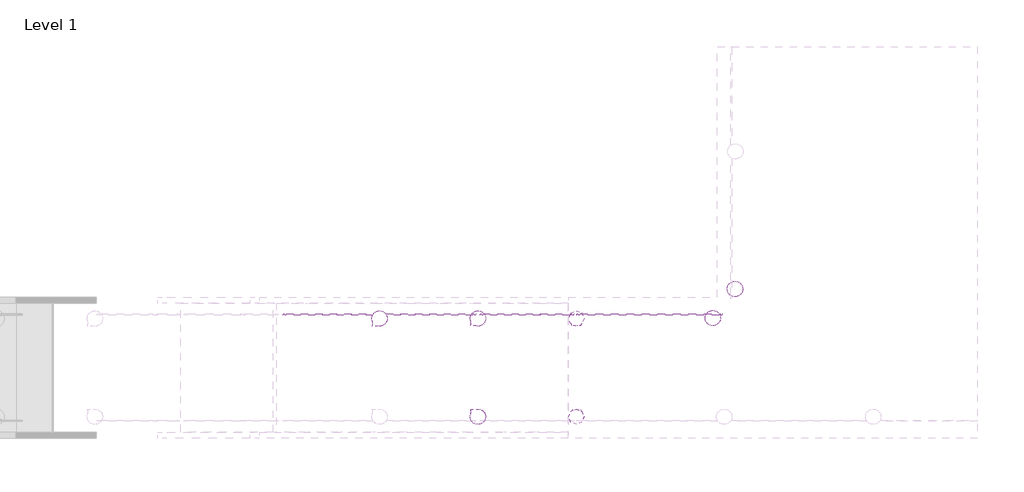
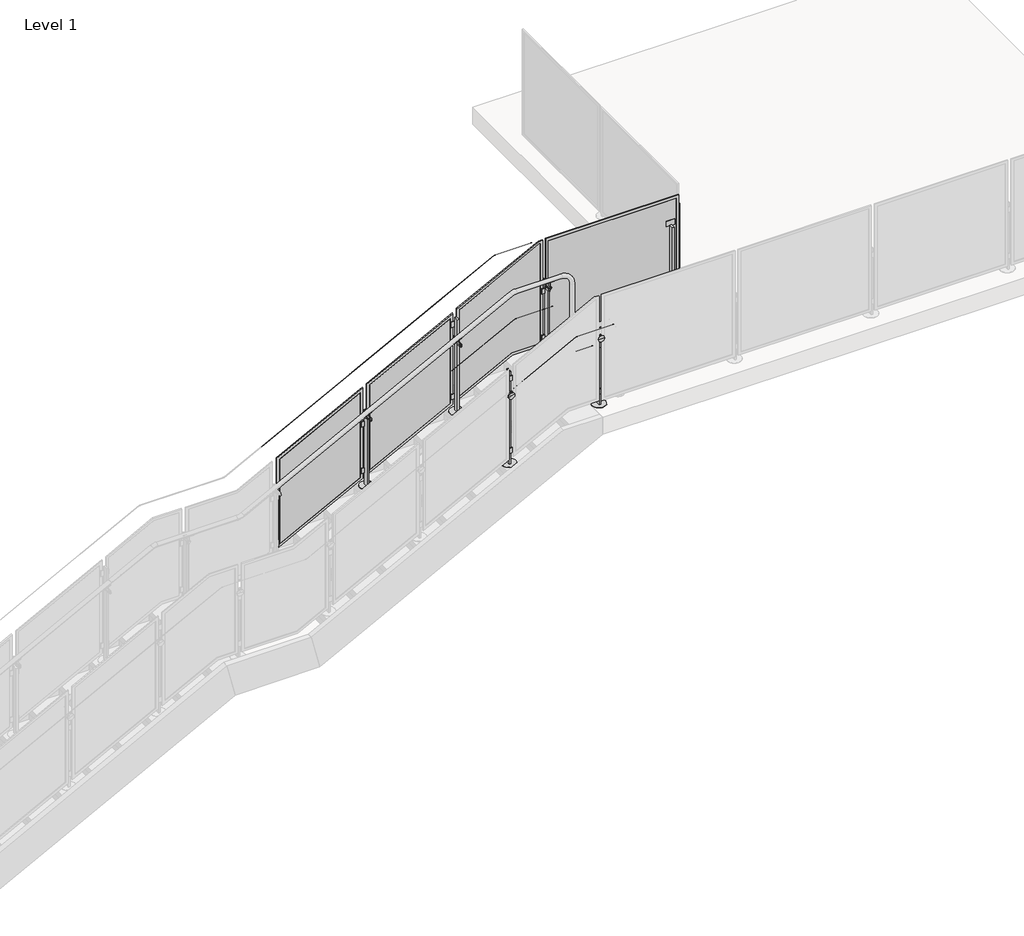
# One storey, part 27 of 28: 5 railings, 4 proxies.
"""IFC4 building model written with IfcOpenShell, lengths in millimetres."""

from ifc_helpers import new_model, si_unit, point, frame, frame_2d, origin, place, context, project, spatial, polyline, circle_curve, ellipse_curve, trimmed, segment, composite_curve, outline, extrude, transform, mapped, element, save
from ifc_brep_helpers import plane_surface, cylinder_surface, advanced_brep
from components import building_element_proxy_bc1e0d3e, building_element_proxy_d74b3768, building_element_proxy_1b4bb758, standard_pp01_0bf05b01

model = new_model("IFC4")

# Units and contexts
model_context = context("Model", 3, world=origin())
ifc_project = project(units=[si_unit("LENGTHUNIT", "METRE", prefix="MILLI")], contexts=[model_context])

# Site, building, storey
site = spatial("IfcSite", under=ifc_project)
building = spatial("IfcBuilding", under=site)
storey = spatial("IfcBuildingStorey", under=building, Name="Level 1", Elevation=0.0)

# Proxies
placement = place(None, origin())
building_element_proxy_shape = building_element_proxy_bc1e0d3e(model_context)
element("IfcBuildingElementProxy", 1, Name="Baluster-End-Post-VIVA-STRUC-Top Mount : CORED INTO CONCRETE_TOP MOUNT STRUC_STRAIGHT", ObjectType="Baluster-End-Post-VIVA-STRUC-Top Mount : CORED INTO CONCRETE_TOP MOUNT STRUC_STRAIGHT", at=placement, inside=storey, context=model_context, shape_type="MappedRepresentation", body=[
    mapped(building_element_proxy_shape, transform((-10830.7485244, 9498.7985341, 3047.492), x_axis=(0.0, -1.0, 0.0), y_axis=(1.0, 0.0, 0.0), z_axis=(0.0, 0.0, 1.0))),
])
building_element_proxy_2_shape = building_element_proxy_d74b3768(model_context)
element("IfcBuildingElementProxy", 2, Name="Baluster-End-Post-VIVA-STRUC-Top Mount : CORED INTO CONCRETE_TOP MOUNT STRUC_STRAIGHT", ObjectType="Baluster-End-Post-VIVA-STRUC-Top Mount : CORED INTO CONCRETE_TOP MOUNT STRUC_STRAIGHT", at=placement, inside=storey, context=model_context, shape_type="MappedRepresentation", body=[
    mapped(building_element_proxy_2_shape, transform((-11020.4813244, 9250.4933232, 3047.492), x_axis=(-1.0, 0.0, 0.0), y_axis=(0.0, -1.0, 0.0), z_axis=(0.0, 0.0, 1.0))),
])
building_element_proxy_3_shape = building_element_proxy_1b4bb758(model_context)
element("IfcBuildingElementProxy", 3, Name="Baluster-End-Post-VIVA-STRUC-Top Mount-Stair : CORED INTO CONCRETE_TOP MOUNT STRUC_STAIR", ObjectType="Baluster-End-Post-VIVA-STRUC-Top Mount-Stair : CORED INTO CONCRETE_TOP MOUNT STRUC_STAIR", at=placement, inside=storey, context=model_context, shape_type="MappedRepresentation", body=[
    mapped(building_element_proxy_3_shape, transform((-12280.6217998, 8604.7301722, 3556.635), x_axis=(1.0, 0.0, 0.0), y_axis=(0.0, 1.0, 0.0), z_axis=(0.0, 0.0, 1.0))),
])
element("IfcBuildingElementProxy", 4, Name="Baluster-End-Post-VIVA-STRUC-Top Mount-Stair : CORED INTO CONCRETE_TOP MOUNT STRUC_STAIR", ObjectType="Baluster-End-Post-VIVA-STRUC-Top Mount-Stair : CORED INTO CONCRETE_TOP MOUNT STRUC_STAIR", at=placement, inside=storey, context=model_context, shape_type="MappedRepresentation", body=[
    mapped(building_element_proxy_3_shape, transform((-12280.6217998, 9247.6549722, 3556.635), x_axis=(-1.0, 0.0, 0.0), y_axis=(0.0, -1.0, 0.0), z_axis=(0.0, 0.0, 1.0))),
])

# Railings
element("IfcRailing", 5, ObjectType="Metal-Panel-VIVA-STRUC-Top_Core-Straight", at=placement, inside=storey, context=model_context, shape_type="SweptSolid", body=[
    extrude(outline(composite_curve([segment(trimmed(circle_curve(frame_2d((9250.4933232, 3047.746)), 0.254), [point((9250.2393232, 3047.746))], [point((9250.7473232, 3047.746))], False, "CARTESIAN"), True, "CONTINUOUS"), segment(trimmed(circle_curve(frame_2d((9250.4933232, 3047.746)), 0.254), [point((9250.7473232, 3047.746))], [point((9250.2393232, 3047.746))], False, "CARTESIAN"), True, "CONTINUOUS")], self_intersect=False)), frame((-12290.4813244, 0.0, 0.0), z_axis=(1.0, 0.0, 0.0), x_axis=(0.0, 1.0, 0.0)), (0.0, 0.0, 1.0), 1270.0),
    extrude(outline(composite_curve([segment(trimmed(circle_curve(frame_2d((9250.4933232, 3047.746)), 0.254), [point((9250.2393232, 3047.746))], [point((9250.7473232, 3047.746))], False, "CARTESIAN"), True, "CONTINUOUS"), segment(trimmed(circle_curve(frame_2d((9250.4933232, 3047.746)), 0.254), [point((9250.7473232, 3047.746))], [point((9250.2393232, 3047.746))], False, "CARTESIAN"), True, "CONTINUOUS")], self_intersect=False)), frame((-12290.4813244, 0.0, 0.0), z_axis=(1.0, 0.0, 0.0), x_axis=(0.0, 1.0, 0.0)), (0.0, 0.0, 1.0), 1270.0),
    extrude(outline(polyline([(-12249.6548675, 9377.3423232), (-11061.3077814, 9377.3423232), (-11061.3077814, 9374.3423232), (-12249.6548675, 9374.3423232), (-12249.6548675, 9377.3423232)])), frame((0.0, 0.0, 3124.1959569), z_axis=(0.0, 0.0, 1.0), x_axis=(1.0, 0.0, 0.0)), (0.0, 0.0, 1.0), 990.5826861),
    extrude(outline(polyline([(4140.1786431, -12275.0548675), (3098.7959569, -12275.0548675), (3098.7959569, -11035.9077814), (4140.1786431, -11035.9077814), (4140.1786431, -12275.0548675)]), holes=[polyline([(3124.1959569, -12249.6548675), (4114.7786431, -12249.6548675), (4114.7786431, -11061.3077814), (3124.1959569, -11061.3077814), (3124.1959569, -12249.6548675)])]), frame((0.0, 9374.3423232, 0.0), z_axis=(0.0, 1.0, 0.0), x_axis=(0.0, 0.0, 1.0)), (0.0, 0.0, 1.0), 9.525),
])
element("IfcRailing", 6, ObjectType="Metal-Panel-VIVA-STRUC-Top_Core-Stairs-Landing-Upper", at=placement, inside=storey, context=model_context, shape_type="SolidModel", body=[
    advanced_brep(
    [(-13220.4217998, 8604.4761722, 3250.0824994), (-13220.4217998, 8604.9841722, 3250.0824994), (-12629.8192861, 8604.4761722, 3556.889), (-12629.8192861, 8604.9841722, 3556.889), (-12280.6217998, 8604.4761722, 3556.889), (-12280.6217998, 8604.9841722, 3556.889)],
    [
        (0, 1, ellipse_curve(frame((-13220.4217998, 8604.7301722, 3250.0824994), z_axis=(-1.0, 0.0, 0.0), x_axis=(0.0, 0.0, -0.9999999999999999)), 0.2862277, 0.254)),
        (1, 0, ellipse_curve(frame((-13220.4217998, 8604.7301722, 3250.0824994), z_axis=(-1.0, 0.0, 0.0), x_axis=(0.0, 0.0, -0.9999999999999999)), 0.2862277, 0.254)),
        (0, 2),
        (2, 3, ellipse_curve(frame((-12629.8192861, 8604.7301722, 3556.889), z_axis=(-0.9714436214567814, 0.0, -0.23727050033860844), x_axis=(0.23727050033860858, 0.0, -0.9714436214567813)), 0.2614665, 0.254)),
        (3, 1),
        (3, 2, ellipse_curve(frame((-12629.8192861, 8604.7301722, 3556.889), z_axis=(-0.9714436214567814, 0.0, -0.23727050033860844), x_axis=(0.23727050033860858, 0.0, -0.9714436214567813)), 0.2614665, 0.254)),
        (4, 5, circle_curve(frame((-12280.6217998, 8604.7301722, 3556.889), z_axis=(1.0, 0.0, 0.0), x_axis=(0.0, 1.0, 0.0)), 0.254)),
        (5, 4, circle_curve(frame((-12280.6217998, 8604.7301722, 3556.889), z_axis=(1.0, 0.0, 0.0), x_axis=(0.0, 1.0, 0.0)), 0.254)),
        (2, 4),
        (5, 3),
    ],
    [
        plane_surface(frame((-13220.4217998, 8604.7301722, 3250.3687271), z_axis=(-1.0, 0.0, 0.0), x_axis=(0.0, 1.0, 0.0))),
        cylinder_surface(frame((-13220.3047084, 8604.7301722, 3250.1433261), z_axis=(-0.8874054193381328, 0.0, -0.4609898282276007), x_axis=(0.0, 1.0, 0.0)), 0.254),
        plane_surface(frame((-12280.6217998, 8604.7301722, 3557.143), z_axis=(1.0, 0.0, 0.0), x_axis=(0.0, 1.0, 0.0))),
        cylinder_surface(frame((-12629.8813244, 8604.7301722, 3556.889), z_axis=(-1.0, 0.0, 0.0), x_axis=(0.0, 1.0, 0.0)), 0.254),
    ],
    [
        (0, [[1, 2]]),
        (1, [[-1, 3, 4, 5]]),
        (1, [[-2, -5, 6, -3]]),
        (2, [[7, 8]]),
        (3, [[-4, 9, -8, 10]]),
        (3, [[-6, -10, -7, -9]]),
    ],
),
    advanced_brep(
    [(-13220.4217998, 8263.5937722, 3667.7622867), (-13220.4217998, 8264.5937722, 3667.7622867), (-12629.7592018, 8263.5937722, 3974.6), (-12629.7592018, 8264.5937722, 3974.6), (-12280.6217998, 8263.5937722, 3974.6), (-12280.6217998, 8264.5937722, 3974.6)],
    [
        (0, 1, ellipse_curve(frame((-13220.4217998, 8264.0937722, 3667.7622867), z_axis=(-1.0, 0.0, 0.0), x_axis=(0.0, 0.0, -0.9999999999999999)), 0.5634403, 0.5)),
        (1, 0, ellipse_curve(frame((-13220.4217998, 8264.0937722, 3667.7622867), z_axis=(-1.0, 0.0, 0.0), x_axis=(0.0, 0.0, -0.9999999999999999)), 0.5634403, 0.5)),
        (0, 2),
        (2, 3, ellipse_curve(frame((-12629.7592018, 8264.0937722, 3974.6), z_axis=(-0.9714436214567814, 0.0, -0.23727050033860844), x_axis=(0.23727050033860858, 0.0, -0.9714436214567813)), 0.5146979, 0.5)),
        (3, 1),
        (3, 2, ellipse_curve(frame((-12629.7592018, 8264.0937722, 3974.6), z_axis=(-0.9714436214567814, 0.0, -0.23727050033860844), x_axis=(0.23727050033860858, 0.0, -0.9714436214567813)), 0.5146979, 0.5)),
        (4, 5, circle_curve(frame((-12280.6217998, 8264.0937722, 3974.6), z_axis=(1.0, 0.0, 0.0), x_axis=(0.0, 1.0, 0.0)), 0.5)),
        (5, 4, circle_curve(frame((-12280.6217998, 8264.0937722, 3974.6), z_axis=(1.0, 0.0, 0.0), x_axis=(0.0, 1.0, 0.0)), 0.5)),
        (2, 4),
        (5, 3),
    ],
    [
        plane_surface(frame((-13220.4217998, 8264.0937722, 3668.3257271), z_axis=(-1.0, 0.0, 0.0), x_axis=(0.0, 1.0, 0.0))),
        cylinder_surface(frame((-13220.1913049, 8264.0937722, 3667.8820244), z_axis=(-0.8874054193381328, 0.0, -0.4609898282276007), x_axis=(0.0, 1.0, 0.0)), 0.5),
        plane_surface(frame((-12280.6217998, 8264.0937722, 3975.1), z_axis=(1.0, 0.0, 0.0), x_axis=(0.0, 1.0, 0.0))),
        cylinder_surface(frame((-12629.8813244, 8264.0937722, 3974.6), z_axis=(-1.0, 0.0, 0.0), x_axis=(0.0, 1.0, 0.0)), 0.5),
    ],
    [
        (0, [[1, 2]]),
        (1, [[-1, 3, 4, 5]]),
        (1, [[-2, -5, 6, -3]]),
        (2, [[7, 8]]),
        (3, [[-4, 9, -8, 10]]),
        (3, [[-6, -10, -7, -9]]),
    ],
),
    extrude(outline(polyline([(-13156.9225191, 8485.1469722), (-13080.7210806, 8485.1469722), (-13080.7210806, 8478.0349722), (-13156.9225191, 8478.0349722), (-13156.9225191, 8485.1469722)])), frame((0.0, 0.0, 3581.6902857), z_axis=(0.0, 0.0, 1.0), x_axis=(1.0, 0.0, 0.0)), (0.0, 0.0, 1.0), 50.8),
    extrude(outline(polyline([(-13156.9225191, 8485.1469722), (-13080.7210806, 8485.1469722), (-13080.7210806, 8478.0349722), (-13156.9225191, 8478.0349722), (-13156.9225191, 8485.1469722)])), frame((0.0, 0.0, 2870.4902857), z_axis=(0.0, 0.0, 1.0), x_axis=(1.0, 0.0, 0.0)), (0.0, 0.0, 1.0), 50.8),
    extrude(outline(composite_curve([segment(polyline([(2.99974, 1e-07), (0.0, 0.0)]), True, "CONTINUOUS"), segment(trimmed(circle_curve(frame_2d((-19.0451471, 0.0)), 19.0451471), [point((0.0, 0.0))], [point((-23.6280664, 18.4855208))], True, "CARTESIAN"), True, "CONTINUOUS"), segment(polyline([(-23.6280664, 18.4855208), (-24.3499073, 21.397116)]), True, "CONTINUOUS"), segment(trimmed(circle_curve(frame_2d((-19.0451471, 0.0)), 22.0448871), [point((-24.3499073, 21.397116))], [point((2.99974, 1e-07))], False, "CARTESIAN"), True, "CONTINUOUS")], self_intersect=False)), frame((-13181.3095103, 8539.2349722, 3479.4567447), z_axis=(0.8874054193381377, 0.0, 0.4609898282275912), x_axis=(0.28405456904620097, -0.7876022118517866, -0.5468050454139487)), (0.0, 0.0, 1.0), 79.1184357),
    advanced_brep(
    [(-13106.4246222, 8554.2349722, 3421.1169809), (-13106.4246222, 8547.0912222, 3421.1169809), (-13106.4246222, 8561.3787222, 3421.1169809), (-13142.2838684, 8547.0912222, 3490.14603), (-13142.2838684, 8554.2349722, 3490.14603), (-13142.2838684, 8561.3787222, 3490.14603)],
    [
        (0, 1),
        (1, 2, circle_curve(frame((-13106.4246222, 8554.2349722, 3421.1169809), z_axis=(0.4609898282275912, 0.0, -0.8874054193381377), x_axis=(0.0, 1.0, 0.0)), 7.14375)),
        (2, 0),
        (3, 4),
        (4, 5),
        (5, 3, circle_curve(frame((-13142.2838684, 8554.2349722, 3490.14603), z_axis=(-0.4609898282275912, 0.0, 0.8874054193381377), x_axis=(0.0, 1.0, 0.0)), 7.14375)),
        (2, 1, circle_curve(frame((-13106.4246222, 8554.2349722, 3421.1169809), z_axis=(0.4609898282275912, 0.0, -0.8874054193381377), x_axis=(0.0, 1.0, 0.0)), 7.14375)),
        (3, 5, circle_curve(frame((-13142.2838684, 8554.2349722, 3490.14603), z_axis=(-0.4609898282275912, 0.0, 0.8874054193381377), x_axis=(0.0, 1.0, 0.0)), 7.14375)),
        (1, 3),
        (5, 2),
    ],
    [
        plane_surface(frame((-13106.4246222, 8554.2349722, 3421.1169809), z_axis=(0.4609898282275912, 0.0, -0.8874054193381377), x_axis=(0.0, 1.0, 0.0))),
        plane_surface(frame((-13142.2838684, 8554.2349722, 3490.14603), z_axis=(-0.4609898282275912, 0.0, 0.8874054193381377), x_axis=(0.0, 1.0, 0.0))),
        cylinder_surface(frame((-12989.4704223, 8554.2349722, 3195.9801462), z_axis=(0.4609898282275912, 0.0, -0.8874054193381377), x_axis=(0.0, 1.0, 0.0)), 7.14375),
    ],
    [
        (0, [[1, 2, 3]]),
        (1, [[4, 5, 6]]),
        (0, [[-3, 7, -1]]),
        (1, [[-5, -4, 8]]),
        (2, [[9, -6, 10, -2]]),
        (2, [[-10, -8, -9, -7]]),
    ],
),
    advanced_brep(
    [(-13145.5881658, 8468.5099722, 3431.0769422), (-13124.4568242, 8468.5099722, 3442.0542624), (-13113.1867754, 8468.5099722, 3447.9088333), (-13092.0554339, 8468.5099722, 3458.8861535), (-13145.5881658, 8460.5724722, 3431.0769422), (-13092.0554339, 8460.5724722, 3458.8861535), (-13145.5881658, 8485.9724722, 3431.0769422), (-13130.0918486, 8485.9724722, 3439.126977), (-13107.551751, 8485.9724722, 3450.8361187), (-13092.0554339, 8485.9724722, 3458.8861535), (-13145.5881658, 8478.0349722, 3431.0769422), (-13092.0554339, 8478.0349722, 3458.8861535), (-13118.8217998, 8460.5724722, 3444.9815479), (-13130.0918486, 8565.3474722, 3439.126977), (-13118.8217998, 8565.3474722, 3444.9815479), (-13107.551751, 8565.3474722, 3450.8361187), (-13124.4568242, 8478.0349722, 3442.0542624), (-13113.1867754, 8478.0349722, 3447.9088333)],
    [
        (0, 1),
        (1, 2, circle_curve(frame((-13118.8217998, 8468.5099722, 3444.9815479), z_axis=(0.0, -1.0, 0.0), x_axis=(0.8874054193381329, 0.0, 0.4609898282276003)), 6.35)),
        (2, 3),
        (3, 0, circle_curve(frame((-13118.8217998, 8468.5099722, 3444.9815479), z_axis=(0.0, 1.0, 0.0), x_axis=(0.8874054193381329, 0.0, 0.4609898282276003)), 30.1625)),
        (4, 0),
        (3, 5),
        (5, 4, circle_curve(frame((-13118.8217998, 8460.5724722, 3444.9815479), z_axis=(0.0, 1.0, 0.0), x_axis=(0.8874054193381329, 0.0, 0.4609898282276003)), 30.1625)),
        (6, 7),
        (7, 8, circle_curve(frame((-13118.8217998, 8485.9724722, 3444.9815479), z_axis=(0.0, -1.0, 0.0), x_axis=(0.8874054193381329, 0.0, 0.4609898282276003)), 12.7)),
        (8, 9),
        (9, 6, circle_curve(frame((-13118.8217998, 8485.9724722, 3444.9815479), z_axis=(0.0, 1.0, 0.0), x_axis=(0.8874054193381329, 0.0, 0.4609898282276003)), 30.1625)),
        (10, 6),
        (9, 11),
        (11, 10, circle_curve(frame((-13118.8217998, 8478.0349722, 3444.9815479), z_axis=(0.0, 1.0, 0.0), x_axis=(0.8874054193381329, 0.0, 0.4609898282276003)), 30.1625)),
        (3, 0, circle_curve(frame((-13118.8217998, 8468.5099722, 3444.9815479), z_axis=(0.0, -1.0, 0.0), x_axis=(0.8874054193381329, 0.0, 0.4609898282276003)), 30.1625)),
        (4, 5, circle_curve(frame((-13118.8217998, 8460.5724722, 3444.9815479), z_axis=(0.0, 1.0, 0.0), x_axis=(0.8874054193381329, 0.0, 0.4609898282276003)), 30.1625)),
        (12, 4),
        (5, 12),
        (13, 14),
        (14, 15),
        (15, 13, circle_curve(frame((-13118.8217998, 8565.3474722, 3444.9815479), z_axis=(0.0, 1.0, 0.0), x_axis=(0.8874054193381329, 0.0, 0.4609898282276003)), 12.7)),
        (13, 15, circle_curve(frame((-13118.8217998, 8565.3474722, 3444.9815479), z_axis=(0.0, 1.0, 0.0), x_axis=(0.8874054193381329, 0.0, 0.4609898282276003)), 12.7)),
        (7, 13),
        (15, 8),
        (7, 8, circle_curve(frame((-13118.8217998, 8485.9724722, 3444.9815479), z_axis=(0.0, 1.0, 0.0), x_axis=(0.8874054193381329, 0.0, 0.4609898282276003)), 12.7)),
        (6, 9, circle_curve(frame((-13118.8217998, 8485.9724722, 3444.9815479), z_axis=(0.0, 1.0, 0.0), x_axis=(0.8874054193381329, 0.0, 0.4609898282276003)), 30.1625)),
        (10, 11, circle_curve(frame((-13118.8217998, 8478.0349722, 3444.9815479), z_axis=(0.0, 1.0, 0.0), x_axis=(0.8874054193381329, 0.0, 0.4609898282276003)), 30.1625)),
        (16, 10),
        (11, 17),
        (17, 16, circle_curve(frame((-13118.8217998, 8478.0349722, 3444.9815479), z_axis=(0.0, 1.0, 0.0), x_axis=(0.8874054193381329, 0.0, 0.4609898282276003)), 6.35)),
        (16, 17, circle_curve(frame((-13118.8217998, 8478.0349722, 3444.9815479), z_axis=(0.0, 1.0, 0.0), x_axis=(0.8874054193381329, 0.0, 0.4609898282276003)), 6.35)),
        (1, 16),
        (17, 2),
        (1, 2, circle_curve(frame((-13118.8217998, 8468.5099722, 3444.9815479), z_axis=(0.0, 1.0, 0.0), x_axis=(0.8874054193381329, 0.0, 0.4609898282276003)), 6.35)),
    ],
    [
        plane_surface(frame((-13118.8217998, 8468.5099722, 3444.9815479), z_axis=(0.0, 1.0, 0.0), x_axis=(0.8874054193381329, 0.0, 0.4609898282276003))),
        cylinder_surface(frame((-13118.8217998, 6954.0349722, 3444.9815479), z_axis=(0.0, -1.0, 0.0), x_axis=(0.8874054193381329, 0.0, 0.4609898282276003)), 30.1625),
        plane_surface(frame((-13118.8217998, 8485.9724722, 3444.9815479), z_axis=(0.0, 1.0, 0.0), x_axis=(0.8874054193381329, 0.0, 0.4609898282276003))),
        plane_surface(frame((-13118.8217998, 8460.5724722, 3444.9815479), z_axis=(0.0, -1.0, 0.0), x_axis=(0.8874054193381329, 0.0, 0.4609898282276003))),
        plane_surface(frame((-13118.8217998, 8565.3474722, 3444.9815479), z_axis=(0.0, 1.0, 0.0), x_axis=(0.8874054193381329, 0.0, 0.4609898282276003))),
        cylinder_surface(frame((-13118.8217998, 6954.0349722, 3444.9815479), z_axis=(0.0, -1.0, 0.0), x_axis=(0.8874054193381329, 0.0, 0.4609898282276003)), 12.7),
        plane_surface(frame((-13118.8217998, 8478.0349722, 3444.9815479), z_axis=(0.0, -1.0, 0.0), x_axis=(0.8874054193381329, 0.0, 0.4609898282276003))),
        cylinder_surface(frame((-13118.8217998, 6954.0349722, 3444.9815479), z_axis=(0.0, -1.0, 0.0), x_axis=(0.8874054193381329, 0.0, 0.4609898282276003)), 6.35),
    ],
    [
        (0, [[1, 2, 3, 4]]),
        (1, [[5, -4, 6, 7]]),
        (2, [[8, 9, 10, 11]]),
        (1, [[12, -11, 13, 14]]),
        (1, [[-6, 15, -5, 16]]),
        (3, [[17, -7, 18]]),
        (3, [[-18, -16, -17]]),
        (4, [[19, 20, 21]]),
        (4, [[-20, -19, 22]]),
        (5, [[23, -21, 24, -9]]),
        (5, [[-24, -22, -23, 25]]),
        (2, [[-10, -25, -8, 26]]),
        (1, [[-13, -26, -12, 27]]),
        (6, [[28, -14, 29, 30]]),
        (6, [[-29, -27, -28, 31]]),
        (7, [[32, -30, 33, -2]]),
        (7, [[-33, -31, -32, 34]]),
        (0, [[-3, -34, -1, -15]]),
    ],
),
    extrude(outline(composite_curve([segment(trimmed(circle_curve(frame_2d((-13118.8217998, 8507.3719722)), 65.8876), [point((-13118.8217998, 8441.4843722))], [point((-13118.8217998, 8573.2595722))], False, "CARTESIAN"), True, "CONTINUOUS"), segment(trimmed(circle_curve(frame_2d((-13118.8217998, 8507.3719722)), 65.8876), [point((-13118.8217998, 8573.2595722))], [point((-13118.8217998, 8441.4843722))], False, "CARTESIAN"), True, "CONTINUOUS")], self_intersect=False)), frame((0.0, 0.0, 2757.7142857), z_axis=(0.0, 0.0, 1.0), x_axis=(1.0, 0.0, 0.0)), (0.0, 0.0, 1.0), 2.9821299),
    extrude(outline(polyline([(-13126.7613915, 8529.5969722), (-13110.8822082, 8529.5969722), (-13110.8822082, 8485.1469722), (-13126.7613915, 8485.1469722), (-13126.7613915, 8529.5969722)])), frame((0.0, 0.0, 2656.1142857), z_axis=(0.0, 0.0, 1.0), x_axis=(1.0, 0.0, 0.0)), (0.0, 0.0, 1.0), 1016.0),
])
element("IfcRailing", 7, ObjectType="Metal-Panel-VIVA-STRUC-Top_Core-Stairs-Upper", at=placement, inside=storey, context=model_context, shape_type="SolidModel", body=[
    advanced_brep(
    [(-14795.2265621, 9587.7913722, 2849.6818907), (-14795.2265621, 9588.7913722, 2849.6818907), (-13118.8265621, 9587.7913722, 3720.5390336), (-13118.8265621, 9588.7913722, 3720.5390336)],
    [
        (0, 1, ellipse_curve(frame((-14795.2265621, 9588.2913722, 2849.6818907), z_axis=(-1.0, 0.0, 0.0), x_axis=(0.0, 0.0, -1.0)), 0.5634403, 0.5)),
        (1, 0, ellipse_curve(frame((-14795.2265621, 9588.2913722, 2849.6818907), z_axis=(-1.0, 0.0, 0.0), x_axis=(0.0, 0.0, -1.0)), 0.5634403, 0.5)),
        (2, 3, ellipse_curve(frame((-13118.8265621, 9588.2913722, 3720.5390336), z_axis=(1.0, 0.0, 0.0), x_axis=(0.0, 0.0, -1.0)), 0.5634403, 0.5)),
        (3, 2, ellipse_curve(frame((-13118.8265621, 9588.2913722, 3720.5390336), z_axis=(1.0, 0.0, 0.0), x_axis=(0.0, 0.0, -1.0)), 0.5634403, 0.5)),
        (0, 2),
        (3, 1),
    ],
    [
        plane_surface(frame((-14795.2265621, 9588.2913722, 2850.2453311), z_axis=(-1.0, 0.0, 0.0), x_axis=(0.0, 1.0, 0.0))),
        plane_surface(frame((-13118.8265621, 9588.2913722, 3721.1024739), z_axis=(1.0, 0.0, 0.0), x_axis=(0.0, 1.0, 0.0))),
        cylinder_surface(frame((-14794.9960672, 9588.2913722, 2849.8016284), z_axis=(-0.8874054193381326, 0.0, -0.46098982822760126), x_axis=(0.0, 1.0, 0.0)), 0.5),
    ],
    [
        (0, [[1, 2]]),
        (1, [[3, 4]]),
        (2, [[-1, 5, -4, 6]]),
        (2, [[-2, -6, -3, -5]]),
    ],
),
    extrude(outline(polyline([(2443.6978914, -13912.5806052), (2832.9488452, -13163.2725191), (3666.9458682, -13163.2725191), (3277.6949144, -13912.5806052), (2443.6978914, -13912.5806052)])), frame((0.0, 9374.2725722, 0.0), z_axis=(0.0, 1.0, 0.0), x_axis=(0.0, 0.0, 1.0)), (0.0, 0.0, 1.0), 3.0),
    extrude(outline(polyline([(3293.1228778, -13937.9806052), (2401.8803176, -13937.9806052), (2817.5208818, -13137.8725191), (3708.7634421, -13137.8725191), (3293.1228778, -13937.9806052)]), holes=[polyline([(2443.6978914, -13912.5806052), (3277.6949144, -13912.5806052), (3666.9458682, -13163.2725191), (2832.9488452, -13163.2725191), (2443.6978914, -13912.5806052)])]), frame((0.0, 9374.2725722, 0.0), z_axis=(0.0, 1.0, 0.0), x_axis=(0.0, 0.0, 1.0)), (0.0, 0.0, 1.0), 9.525),
    extrude(outline(polyline([(-13995.1272814, 9367.2381722), (-13995.1272814, 9374.3501722), (-13918.9258429, 9374.3501722), (-13918.9258429, 9367.2381722), (-13995.1272814, 9367.2381722)])), frame((0.0, 0.0, 2892.2617143), z_axis=(0.0, 0.0, 1.0), x_axis=(1.0, 0.0, 0.0)), (0.0, 0.0, 1.0), 50.8),
    extrude(outline(polyline([(-13995.1272814, 9367.2381722), (-13995.1272814, 9374.3501722), (-13918.9258429, 9374.3501722), (-13918.9258429, 9367.2381722), (-13995.1272814, 9367.2381722)])), frame((0.0, 0.0, 2435.0617143), z_axis=(0.0, 0.0, 1.0), x_axis=(1.0, 0.0, 0.0)), (0.0, 0.0, 1.0), 50.8),
    extrude(outline(composite_curve([segment(trimmed(circle_curve(frame_2d((-19.0451472, 1e-07)), 22.0448871), [point((2.99974, 1e-07))], [point((-24.3499072, -21.3971158))], False, "CARTESIAN"), True, "CONTINUOUS"), segment(polyline([(-24.3499072, -21.3971158), (-23.6280664, -18.4855208)]), True, "CONTINUOUS"), segment(trimmed(circle_curve(frame_2d((-19.0451472, 1e-07)), 19.0451471), [point((-23.6280664, -18.4855208))], [point((0.0, 0.0))], True, "CARTESIAN"), True, "CONTINUOUS"), segment(polyline([(0.0, 0.0), (2.99974, 1e-07)]), True, "CONTINUOUS")], self_intersect=False)), frame((-14019.5142726, 9313.1501722, 3044.0256993), z_axis=(0.8874054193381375, 0.0, 0.4609898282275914), x_axis=(0.28405456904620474, 0.7876022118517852, -0.5468050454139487)), (0.0, 0.0, 1.0), 79.1184357),
    advanced_brep(
    [(-13944.6293845, 9298.1501722, 2985.6859356), (-13944.6293845, 9291.0064222, 2985.6859356), (-13944.6293845, 9305.2939222, 2985.6859356), (-13980.4886307, 9305.2939222, 3054.7149846), (-13980.4886307, 9291.0064222, 3054.7149846), (-13980.4886307, 9298.1501722, 3054.7149846)],
    [
        (0, 1),
        (1, 2, circle_curve(frame((-13944.6293845, 9298.1501722, 2985.6859356), z_axis=(0.4609898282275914, 0.0, -0.8874054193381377), x_axis=(0.0, -1.0, 0.0)), 7.14375)),
        (2, 0),
        (3, 4, circle_curve(frame((-13980.4886307, 9298.1501722, 3054.7149846), z_axis=(-0.4609898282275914, 0.0, 0.8874054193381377), x_axis=(0.0, -1.0, 0.0)), 7.14375)),
        (4, 5),
        (5, 3),
        (2, 1, circle_curve(frame((-13944.6293845, 9298.1501722, 2985.6859356), z_axis=(0.4609898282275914, 0.0, -0.8874054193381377), x_axis=(0.0, -1.0, 0.0)), 7.14375)),
        (4, 3, circle_curve(frame((-13980.4886307, 9298.1501722, 3054.7149846), z_axis=(-0.4609898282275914, 0.0, 0.8874054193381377), x_axis=(0.0, -1.0, 0.0)), 7.14375)),
        (1, 4),
        (3, 2),
    ],
    [
        plane_surface(frame((-13944.6293845, 9298.1501722, 2985.6859356), z_axis=(0.4609898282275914, 0.0, -0.8874054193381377), x_axis=(0.0, -1.0, 0.0))),
        plane_surface(frame((-13980.4886307, 9298.1501722, 3054.7149846), z_axis=(-0.4609898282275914, 0.0, 0.8874054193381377), x_axis=(0.0, -1.0, 0.0))),
        cylinder_surface(frame((-13827.6751846, 9298.1501722, 2760.5491008), z_axis=(0.4609898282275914, 0.0, -0.8874054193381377), x_axis=(0.0, -1.0, 0.0)), 7.14375),
    ],
    [
        (0, [[1, 2, 3]]),
        (1, [[4, 5, 6]]),
        (0, [[-3, 7, -1]]),
        (1, [[8, -6, -5]]),
        (2, [[-2, 9, -4, 10]]),
        (2, [[-7, -10, -8, -9]]),
    ],
),
    advanced_brep(
    [(-13983.7929281, 9383.8751722, 2995.6458968), (-13930.2601962, 9383.8751722, 3023.4551082), (-13951.3915377, 9383.8751722, 3012.4777879), (-13962.6615865, 9383.8751722, 3006.6232171), (-13983.7929281, 9391.8126722, 2995.6458968), (-13930.2601962, 9391.8126722, 3023.4551082), (-13983.7929281, 9366.4126722, 2995.6458968), (-13930.2601962, 9366.4126722, 3023.4551082), (-13945.7565133, 9366.4126722, 3015.4050733), (-13968.2966109, 9366.4126722, 3003.6959317), (-13983.7929281, 9374.3501722, 2995.6458968), (-13930.2601962, 9374.3501722, 3023.4551082), (-13957.0265621, 9391.8126722, 3009.5505025), (-13968.2966109, 9287.0376722, 3003.6959317), (-13945.7565133, 9287.0376722, 3015.4050733), (-13957.0265621, 9287.0376722, 3009.5505025), (-13962.6615865, 9374.3501722, 3006.6232171), (-13951.3915377, 9374.3501722, 3012.4777879)],
    [
        (0, 1, circle_curve(frame((-13957.0265621, 9383.8751722, 3009.5505025), z_axis=(0.0, -1.0, 0.0), x_axis=(0.8874054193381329, 0.0, 0.4609898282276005)), 30.1625)),
        (1, 2),
        (2, 3, circle_curve(frame((-13957.0265621, 9383.8751722, 3009.5505025), z_axis=(0.0, 1.0, 0.0), x_axis=(0.8874054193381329, 0.0, 0.4609898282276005)), 6.35)),
        (3, 0),
        (4, 5, circle_curve(frame((-13957.0265621, 9391.8126722, 3009.5505025), z_axis=(0.0, -1.0, 0.0), x_axis=(0.8874054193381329, 0.0, 0.4609898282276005)), 30.1625)),
        (5, 1),
        (0, 4),
        (6, 7, circle_curve(frame((-13957.0265621, 9366.4126722, 3009.5505025), z_axis=(0.0, -1.0, 0.0), x_axis=(0.8874054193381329, 0.0, 0.4609898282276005)), 30.1625)),
        (7, 8),
        (8, 9, circle_curve(frame((-13957.0265621, 9366.4126722, 3009.5505025), z_axis=(0.0, 1.0, 0.0), x_axis=(0.8874054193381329, 0.0, 0.4609898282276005)), 12.7)),
        (9, 6),
        (10, 11, circle_curve(frame((-13957.0265621, 9374.3501722, 3009.5505025), z_axis=(0.0, -1.0, 0.0), x_axis=(0.8874054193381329, 0.0, 0.4609898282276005)), 30.1625)),
        (11, 7),
        (6, 10),
        (5, 4, circle_curve(frame((-13957.0265621, 9391.8126722, 3009.5505025), z_axis=(0.0, -1.0, 0.0), x_axis=(0.8874054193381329, 0.0, 0.4609898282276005)), 30.1625)),
        (0, 1, circle_curve(frame((-13957.0265621, 9383.8751722, 3009.5505025), z_axis=(0.0, 1.0, 0.0), x_axis=(0.8874054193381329, 0.0, 0.4609898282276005)), 30.1625)),
        (12, 5),
        (4, 12),
        (13, 14, circle_curve(frame((-13957.0265621, 9287.0376722, 3009.5505025), z_axis=(0.0, -1.0, 0.0), x_axis=(0.8874054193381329, 0.0, 0.4609898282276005)), 12.7)),
        (14, 15),
        (15, 13),
        (14, 13, circle_curve(frame((-13957.0265621, 9287.0376722, 3009.5505025), z_axis=(0.0, -1.0, 0.0), x_axis=(0.8874054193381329, 0.0, 0.4609898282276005)), 12.7)),
        (8, 14),
        (13, 9),
        (8, 9, circle_curve(frame((-13957.0265621, 9366.4126722, 3009.5505025), z_axis=(0.0, -1.0, 0.0), x_axis=(0.8874054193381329, 0.0, 0.4609898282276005)), 12.7)),
        (7, 6, circle_curve(frame((-13957.0265621, 9366.4126722, 3009.5505025), z_axis=(0.0, -1.0, 0.0), x_axis=(0.8874054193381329, 0.0, 0.4609898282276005)), 30.1625)),
        (11, 10, circle_curve(frame((-13957.0265621, 9374.3501722, 3009.5505025), z_axis=(0.0, -1.0, 0.0), x_axis=(0.8874054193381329, 0.0, 0.4609898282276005)), 30.1625)),
        (16, 17, circle_curve(frame((-13957.0265621, 9374.3501722, 3009.5505025), z_axis=(0.0, -1.0, 0.0), x_axis=(0.8874054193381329, 0.0, 0.4609898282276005)), 6.35)),
        (17, 11),
        (10, 16),
        (17, 16, circle_curve(frame((-13957.0265621, 9374.3501722, 3009.5505025), z_axis=(0.0, -1.0, 0.0), x_axis=(0.8874054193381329, 0.0, 0.4609898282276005)), 6.35)),
        (2, 17),
        (16, 3),
        (2, 3, circle_curve(frame((-13957.0265621, 9383.8751722, 3009.5505025), z_axis=(0.0, -1.0, 0.0), x_axis=(0.8874054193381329, 0.0, 0.4609898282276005)), 6.35)),
    ],
    [
        plane_surface(frame((-13957.0265621, 9383.8751722, 3009.5505025), z_axis=(0.0, -1.0, 0.0), x_axis=(0.8874054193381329, 0.0, 0.4609898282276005))),
        cylinder_surface(frame((-13957.0265621, 10898.3501722, 3009.5505025), z_axis=(0.0, 1.0, 0.0), x_axis=(0.8874054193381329, 0.0, 0.4609898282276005)), 30.1625),
        plane_surface(frame((-13957.0265621, 9366.4126722, 3009.5505025), z_axis=(0.0, -1.0, 0.0), x_axis=(0.8874054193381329, 0.0, 0.4609898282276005))),
        plane_surface(frame((-13957.0265621, 9391.8126722, 3009.5505025), z_axis=(0.0, 1.0, 0.0), x_axis=(0.8874054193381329, 0.0, 0.4609898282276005))),
        plane_surface(frame((-13957.0265621, 9287.0376722, 3009.5505025), z_axis=(0.0, -1.0, 0.0), x_axis=(0.8874054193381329, 0.0, 0.4609898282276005))),
        cylinder_surface(frame((-13957.0265621, 10898.3501722, 3009.5505025), z_axis=(0.0, 1.0, 0.0), x_axis=(0.8874054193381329, 0.0, 0.4609898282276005)), 12.7),
        plane_surface(frame((-13957.0265621, 9374.3501722, 3009.5505025), z_axis=(0.0, 1.0, 0.0), x_axis=(0.8874054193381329, 0.0, 0.4609898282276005))),
        cylinder_surface(frame((-13957.0265621, 10898.3501722, 3009.5505025), z_axis=(0.0, 1.0, 0.0), x_axis=(0.8874054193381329, 0.0, 0.4609898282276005)), 6.35),
    ],
    [
        (0, [[1, 2, 3, 4]]),
        (1, [[5, 6, -1, 7]]),
        (2, [[8, 9, 10, 11]]),
        (1, [[12, 13, -8, 14]]),
        (1, [[15, -7, 16, -6]]),
        (3, [[17, -5, 18]]),
        (3, [[-18, -15, -17]]),
        (4, [[19, 20, 21]]),
        (4, [[22, -21, -20]]),
        (5, [[-10, 23, -19, 24]]),
        (5, [[25, -24, -22, -23]]),
        (2, [[26, -11, -25, -9]]),
        (1, [[27, -14, -26, -13]]),
        (6, [[28, 29, -12, 30]]),
        (6, [[31, -30, -27, -29]]),
        (7, [[-3, 32, -28, 33]]),
        (7, [[34, -33, -31, -32]]),
        (0, [[-16, -4, -34, -2]]),
    ],
),
    extrude(outline(composite_curve([segment(trimmed(circle_curve(frame_2d((-13957.0265621, 9345.0131722)), 65.8876), [point((-13957.0265621, 9410.9007722))], [point((-13957.0265621, 9279.1255722))], False, "CARTESIAN"), True, "CONTINUOUS"), segment(trimmed(circle_curve(frame_2d((-13957.0265621, 9345.0131722)), 65.8876), [point((-13957.0265621, 9279.1255722))], [point((-13957.0265621, 9410.9007722))], False, "CARTESIAN"), True, "CONTINUOUS")], self_intersect=False)), frame((0.0, 0.0, 2322.2857143), z_axis=(0.0, 0.0, 1.0), x_axis=(1.0, 0.0, 0.0)), (0.0, 0.0, 1.0), 2.9821299),
    extrude(outline(polyline([(-13964.9661538, 9322.7881722), (-13964.9661538, 9367.2381722), (-13949.0869705, 9367.2381722), (-13949.0869705, 9322.7881722), (-13964.9661538, 9322.7881722)])), frame((0.0, 0.0, 2220.6857143), z_axis=(0.0, 0.0, 1.0), x_axis=(1.0, 0.0, 0.0)), (0.0, 0.0, 1.0), 762.0),
    extrude(outline(polyline([(2008.26932, -14750.7806052), (2397.5202738, -14001.4725191), (3231.5172968, -14001.4725191), (2842.266343, -14750.7806052), (2008.26932, -14750.7806052)])), frame((0.0, 9374.2725722, 0.0), z_axis=(0.0, 1.0, 0.0), x_axis=(0.0, 0.0, 1.0)), (0.0, 0.0, 1.0), 3.0),
    extrude(outline(polyline([(2857.6943064, -14776.1806052), (1966.4517462, -14776.1806052), (2382.0923104, -13976.0725191), (3273.3348706, -13976.0725191), (2857.6943064, -14776.1806052)]), holes=[polyline([(2008.26932, -14750.7806052), (2842.266343, -14750.7806052), (3231.5172968, -14001.4725191), (2397.5202738, -14001.4725191), (2008.26932, -14750.7806052)])]), frame((0.0, 9374.2725722, 0.0), z_axis=(0.0, 1.0, 0.0), x_axis=(0.0, 0.0, 1.0)), (0.0, 0.0, 1.0), 9.525),
])
element("IfcRailing", 8, ObjectType="Metal-Panel-VIVA-STRUC-Top_Core-Stairs-Landing-Upper", at=placement, inside=storey, context=model_context, shape_type="SolidModel", body=[
    advanced_brep(
    [(-13220.4217998, 9247.4009722, 3250.0824994), (-13220.4217998, 9247.9089722, 3250.0824994), (-12629.8192861, 9247.4009722, 3556.889), (-12629.8192861, 9247.9089722, 3556.889), (-12280.6217998, 9247.4009722, 3556.889), (-12280.6217998, 9247.9089722, 3556.889)],
    [
        (0, 1, ellipse_curve(frame((-13220.4217998, 9247.6549722, 3250.0824994), z_axis=(-1.0, 0.0, 0.0), x_axis=(0.0, 0.0, -0.9999999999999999)), 0.2862277, 0.254)),
        (1, 0, ellipse_curve(frame((-13220.4217998, 9247.6549722, 3250.0824994), z_axis=(-1.0, 0.0, 0.0), x_axis=(0.0, 0.0, -0.9999999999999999)), 0.2862277, 0.254)),
        (0, 2),
        (2, 3, ellipse_curve(frame((-12629.8192861, 9247.6549722, 3556.889), z_axis=(-0.9714436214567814, 0.0, -0.23727050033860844), x_axis=(0.23727050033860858, 0.0, -0.9714436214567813)), 0.2614665, 0.254)),
        (3, 1),
        (3, 2, ellipse_curve(frame((-12629.8192861, 9247.6549722, 3556.889), z_axis=(-0.9714436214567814, 0.0, -0.23727050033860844), x_axis=(0.23727050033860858, 0.0, -0.9714436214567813)), 0.2614665, 0.254)),
        (4, 5, circle_curve(frame((-12280.6217998, 9247.6549722, 3556.889), z_axis=(1.0, 0.0, 0.0), x_axis=(0.0, 1.0, 0.0)), 0.254)),
        (5, 4, circle_curve(frame((-12280.6217998, 9247.6549722, 3556.889), z_axis=(1.0, 0.0, 0.0), x_axis=(0.0, 1.0, 0.0)), 0.254)),
        (2, 4),
        (5, 3),
    ],
    [
        plane_surface(frame((-13220.4217998, 9247.6549722, 3250.3687271), z_axis=(-1.0, 0.0, 0.0), x_axis=(0.0, 1.0, 0.0))),
        cylinder_surface(frame((-13220.3047084, 9247.6549722, 3250.1433261), z_axis=(-0.8874054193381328, 0.0, -0.4609898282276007), x_axis=(0.0, 1.0, 0.0)), 0.254),
        plane_surface(frame((-12280.6217998, 9247.6549722, 3557.143), z_axis=(1.0, 0.0, 0.0), x_axis=(0.0, 1.0, 0.0))),
        cylinder_surface(frame((-12629.8813244, 9247.6549722, 3556.889), z_axis=(-1.0, 0.0, 0.0), x_axis=(0.0, 1.0, 0.0)), 0.254),
    ],
    [
        (0, [[1, 2]]),
        (1, [[-1, 3, 4, 5]]),
        (1, [[-2, -5, 6, -3]]),
        (2, [[7, 8]]),
        (3, [[-4, 9, -8, 10]]),
        (3, [[-6, -10, -7, -9]]),
    ],
),
    advanced_brep(
    [(-13220.4217998, 9587.7913722, 3667.7622867), (-13220.4217998, 9588.7913722, 3667.7622867), (-12629.7592018, 9587.7913722, 3974.6), (-12629.7592018, 9588.7913722, 3974.6), (-12280.6217998, 9587.7913722, 3974.6), (-12280.6217998, 9588.7913722, 3974.6)],
    [
        (0, 1, ellipse_curve(frame((-13220.4217998, 9588.2913722, 3667.7622867), z_axis=(-1.0, 0.0, 0.0), x_axis=(0.0, 0.0, -0.9999999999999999)), 0.5634403, 0.5)),
        (1, 0, ellipse_curve(frame((-13220.4217998, 9588.2913722, 3667.7622867), z_axis=(-1.0, 0.0, 0.0), x_axis=(0.0, 0.0, -0.9999999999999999)), 0.5634403, 0.5)),
        (0, 2),
        (2, 3, ellipse_curve(frame((-12629.7592018, 9588.2913722, 3974.6), z_axis=(-0.9714436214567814, 0.0, -0.23727050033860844), x_axis=(0.23727050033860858, 0.0, -0.9714436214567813)), 0.5146979, 0.5)),
        (3, 1),
        (3, 2, ellipse_curve(frame((-12629.7592018, 9588.2913722, 3974.6), z_axis=(-0.9714436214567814, 0.0, -0.23727050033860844), x_axis=(0.23727050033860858, 0.0, -0.9714436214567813)), 0.5146979, 0.5)),
        (4, 5, circle_curve(frame((-12280.6217998, 9588.2913722, 3974.6), z_axis=(1.0, 0.0, 0.0), x_axis=(0.0, 1.0, 0.0)), 0.5)),
        (5, 4, circle_curve(frame((-12280.6217998, 9588.2913722, 3974.6), z_axis=(1.0, 0.0, 0.0), x_axis=(0.0, 1.0, 0.0)), 0.5)),
        (2, 4),
        (5, 3),
    ],
    [
        plane_surface(frame((-13220.4217998, 9588.2913722, 3668.3257271), z_axis=(-1.0, 0.0, 0.0), x_axis=(0.0, 1.0, 0.0))),
        cylinder_surface(frame((-13220.1913049, 9588.2913722, 3667.8820244), z_axis=(-0.8874054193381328, 0.0, -0.4609898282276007), x_axis=(0.0, 1.0, 0.0)), 0.5),
        plane_surface(frame((-12280.6217998, 9588.2913722, 3975.1), z_axis=(1.0, 0.0, 0.0), x_axis=(0.0, 1.0, 0.0))),
        cylinder_surface(frame((-12629.8813244, 9588.2913722, 3974.6), z_axis=(-1.0, 0.0, 0.0), x_axis=(0.0, 1.0, 0.0)), 0.5),
    ],
    [
        (0, [[1, 2]]),
        (1, [[-1, 3, 4, 5]]),
        (1, [[-2, -5, 6, -3]]),
        (2, [[7, 8]]),
        (3, [[-4, 9, -8, 10]]),
        (3, [[-6, -10, -7, -9]]),
    ],
),
    extrude(outline(polyline([(-13156.9225191, 9367.2381722), (-13156.9225191, 9374.3501722), (-13080.7210806, 9374.3501722), (-13080.7210806, 9367.2381722), (-13156.9225191, 9367.2381722)])), frame((0.0, 0.0, 3581.6902857), z_axis=(0.0, 0.0, 1.0), x_axis=(1.0, 0.0, 0.0)), (0.0, 0.0, 1.0), 50.8),
    extrude(outline(polyline([(-13156.9225191, 9367.2381722), (-13156.9225191, 9374.3501722), (-13080.7210806, 9374.3501722), (-13080.7210806, 9367.2381722), (-13156.9225191, 9367.2381722)])), frame((0.0, 0.0, 2870.4902857), z_axis=(0.0, 0.0, 1.0), x_axis=(1.0, 0.0, 0.0)), (0.0, 0.0, 1.0), 50.8),
    extrude(outline(composite_curve([segment(trimmed(circle_curve(frame_2d((-19.0451471, 0.0)), 22.0448871), [point((2.9997401, 0.0))], [point((-24.3499072, -21.3971159))], False, "CARTESIAN"), True, "CONTINUOUS"), segment(polyline([(-24.3499072, -21.3971159), (-23.6280664, -18.4855208)]), True, "CONTINUOUS"), segment(trimmed(circle_curve(frame_2d((-19.0451471, 0.0)), 19.0451471), [point((-23.6280664, -18.4855208))], [point((0.0, 0.0))], True, "CARTESIAN"), True, "CONTINUOUS"), segment(polyline([(0.0, 0.0), (2.9997401, 0.0)]), True, "CONTINUOUS")], self_intersect=False)), frame((-13181.3095103, 9313.1501722, 3479.4567447), z_axis=(0.8874054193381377, 0.0, 0.4609898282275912), x_axis=(0.28405456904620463, 0.7876022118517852, -0.5468050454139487)), (0.0, 0.0, 1.0), 79.1184357),
    advanced_brep(
    [(-13106.4246222, 9298.1501722, 3421.1169809), (-13106.4246222, 9291.0064222, 3421.1169809), (-13106.4246222, 9305.2939222, 3421.1169809), (-13142.2838684, 9305.2939222, 3490.14603), (-13142.2838684, 9291.0064222, 3490.14603), (-13142.2838684, 9298.1501722, 3490.14603)],
    [
        (0, 1),
        (1, 2, circle_curve(frame((-13106.4246222, 9298.1501722, 3421.1169809), z_axis=(0.4609898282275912, 0.0, -0.8874054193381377), x_axis=(0.0, -1.0, 0.0)), 7.14375)),
        (2, 0),
        (3, 4, circle_curve(frame((-13142.2838684, 9298.1501722, 3490.14603), z_axis=(-0.4609898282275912, 0.0, 0.8874054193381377), x_axis=(0.0, -1.0, 0.0)), 7.14375)),
        (4, 5),
        (5, 3),
        (2, 1, circle_curve(frame((-13106.4246222, 9298.1501722, 3421.1169809), z_axis=(0.4609898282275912, 0.0, -0.8874054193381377), x_axis=(0.0, -1.0, 0.0)), 7.14375)),
        (4, 3, circle_curve(frame((-13142.2838684, 9298.1501722, 3490.14603), z_axis=(-0.4609898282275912, 0.0, 0.8874054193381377), x_axis=(0.0, -1.0, 0.0)), 7.14375)),
        (1, 4),
        (3, 2),
    ],
    [
        plane_surface(frame((-13106.4246222, 9298.1501722, 3421.1169809), z_axis=(0.4609898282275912, 0.0, -0.8874054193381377), x_axis=(0.0, -1.0, 0.0))),
        plane_surface(frame((-13142.2838684, 9298.1501722, 3490.14603), z_axis=(-0.4609898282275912, 0.0, 0.8874054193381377), x_axis=(0.0, -1.0, 0.0))),
        cylinder_surface(frame((-12989.4704223, 9298.1501722, 3195.9801462), z_axis=(0.4609898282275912, 0.0, -0.8874054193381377), x_axis=(0.0, -1.0, 0.0)), 7.14375),
    ],
    [
        (0, [[1, 2, 3]]),
        (1, [[4, 5, 6]]),
        (0, [[-3, 7, -1]]),
        (1, [[8, -6, -5]]),
        (2, [[-2, 9, -4, 10]]),
        (2, [[-7, -10, -8, -9]]),
    ],
),
    advanced_brep(
    [(-13145.5881658, 9383.8751722, 3431.0769422), (-13092.0554339, 9383.8751722, 3458.8861535), (-13113.1867754, 9383.8751722, 3447.9088333), (-13124.4568242, 9383.8751722, 3442.0542624), (-13145.5881658, 9391.8126722, 3431.0769422), (-13092.0554339, 9391.8126722, 3458.8861535), (-13145.5881658, 9366.4126722, 3431.0769422), (-13092.0554339, 9366.4126722, 3458.8861535), (-13107.551751, 9366.4126722, 3450.8361187), (-13130.0918486, 9366.4126722, 3439.126977), (-13145.5881658, 9374.3501722, 3431.0769422), (-13092.0554339, 9374.3501722, 3458.8861535), (-13118.8217998, 9391.8126722, 3444.9815479), (-13130.0918486, 9287.0376722, 3439.126977), (-13107.551751, 9287.0376722, 3450.8361187), (-13118.8217998, 9287.0376722, 3444.9815479), (-13124.4568242, 9374.3501722, 3442.0542624), (-13113.1867754, 9374.3501722, 3447.9088333)],
    [
        (0, 1, circle_curve(frame((-13118.8217998, 9383.8751722, 3444.9815479), z_axis=(0.0, -1.0, 0.0), x_axis=(0.8874054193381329, 0.0, 0.4609898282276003)), 30.1625)),
        (1, 2),
        (2, 3, circle_curve(frame((-13118.8217998, 9383.8751722, 3444.9815479), z_axis=(0.0, 1.0, 0.0), x_axis=(0.8874054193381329, 0.0, 0.4609898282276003)), 6.35)),
        (3, 0),
        (4, 5, circle_curve(frame((-13118.8217998, 9391.8126722, 3444.9815479), z_axis=(0.0, -1.0, 0.0), x_axis=(0.8874054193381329, 0.0, 0.4609898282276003)), 30.1625)),
        (5, 1),
        (0, 4),
        (6, 7, circle_curve(frame((-13118.8217998, 9366.4126722, 3444.9815479), z_axis=(0.0, -1.0, 0.0), x_axis=(0.8874054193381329, 0.0, 0.4609898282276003)), 30.1625)),
        (7, 8),
        (8, 9, circle_curve(frame((-13118.8217998, 9366.4126722, 3444.9815479), z_axis=(0.0, 1.0, 0.0), x_axis=(0.8874054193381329, 0.0, 0.4609898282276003)), 12.7)),
        (9, 6),
        (10, 11, circle_curve(frame((-13118.8217998, 9374.3501722, 3444.9815479), z_axis=(0.0, -1.0, 0.0), x_axis=(0.8874054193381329, 0.0, 0.4609898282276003)), 30.1625)),
        (11, 7),
        (6, 10),
        (5, 4, circle_curve(frame((-13118.8217998, 9391.8126722, 3444.9815479), z_axis=(0.0, -1.0, 0.0), x_axis=(0.8874054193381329, 0.0, 0.4609898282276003)), 30.1625)),
        (0, 1, circle_curve(frame((-13118.8217998, 9383.8751722, 3444.9815479), z_axis=(0.0, 1.0, 0.0), x_axis=(0.8874054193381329, 0.0, 0.4609898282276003)), 30.1625)),
        (12, 5),
        (4, 12),
        (13, 14, circle_curve(frame((-13118.8217998, 9287.0376722, 3444.9815479), z_axis=(0.0, -1.0, 0.0), x_axis=(0.8874054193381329, 0.0, 0.4609898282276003)), 12.7)),
        (14, 15),
        (15, 13),
        (14, 13, circle_curve(frame((-13118.8217998, 9287.0376722, 3444.9815479), z_axis=(0.0, -1.0, 0.0), x_axis=(0.8874054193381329, 0.0, 0.4609898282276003)), 12.7)),
        (8, 14),
        (13, 9),
        (8, 9, circle_curve(frame((-13118.8217998, 9366.4126722, 3444.9815479), z_axis=(0.0, -1.0, 0.0), x_axis=(0.8874054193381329, 0.0, 0.4609898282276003)), 12.7)),
        (7, 6, circle_curve(frame((-13118.8217998, 9366.4126722, 3444.9815479), z_axis=(0.0, -1.0, 0.0), x_axis=(0.8874054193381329, 0.0, 0.4609898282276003)), 30.1625)),
        (11, 10, circle_curve(frame((-13118.8217998, 9374.3501722, 3444.9815479), z_axis=(0.0, -1.0, 0.0), x_axis=(0.8874054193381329, 0.0, 0.4609898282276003)), 30.1625)),
        (16, 17, circle_curve(frame((-13118.8217998, 9374.3501722, 3444.9815479), z_axis=(0.0, -1.0, 0.0), x_axis=(0.8874054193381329, 0.0, 0.4609898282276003)), 6.35)),
        (17, 11),
        (10, 16),
        (17, 16, circle_curve(frame((-13118.8217998, 9374.3501722, 3444.9815479), z_axis=(0.0, -1.0, 0.0), x_axis=(0.8874054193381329, 0.0, 0.4609898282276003)), 6.35)),
        (2, 17),
        (16, 3),
        (2, 3, circle_curve(frame((-13118.8217998, 9383.8751722, 3444.9815479), z_axis=(0.0, -1.0, 0.0), x_axis=(0.8874054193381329, 0.0, 0.4609898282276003)), 6.35)),
    ],
    [
        plane_surface(frame((-13118.8217998, 9383.8751722, 3444.9815479), z_axis=(0.0, -1.0, 0.0), x_axis=(0.8874054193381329, 0.0, 0.4609898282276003))),
        cylinder_surface(frame((-13118.8217998, 10898.3501722, 3444.9815479), z_axis=(0.0, 1.0, 0.0), x_axis=(0.8874054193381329, 0.0, 0.4609898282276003)), 30.1625),
        plane_surface(frame((-13118.8217998, 9366.4126722, 3444.9815479), z_axis=(0.0, -1.0, 0.0), x_axis=(0.8874054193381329, 0.0, 0.4609898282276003))),
        plane_surface(frame((-13118.8217998, 9391.8126722, 3444.9815479), z_axis=(0.0, 1.0, 0.0), x_axis=(0.8874054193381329, 0.0, 0.4609898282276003))),
        plane_surface(frame((-13118.8217998, 9287.0376722, 3444.9815479), z_axis=(0.0, -1.0, 0.0), x_axis=(0.8874054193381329, 0.0, 0.4609898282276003))),
        cylinder_surface(frame((-13118.8217998, 10898.3501722, 3444.9815479), z_axis=(0.0, 1.0, 0.0), x_axis=(0.8874054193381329, 0.0, 0.4609898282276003)), 12.7),
        plane_surface(frame((-13118.8217998, 9374.3501722, 3444.9815479), z_axis=(0.0, 1.0, 0.0), x_axis=(0.8874054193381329, 0.0, 0.4609898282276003))),
        cylinder_surface(frame((-13118.8217998, 10898.3501722, 3444.9815479), z_axis=(0.0, 1.0, 0.0), x_axis=(0.8874054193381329, 0.0, 0.4609898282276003)), 6.35),
    ],
    [
        (0, [[1, 2, 3, 4]]),
        (1, [[5, 6, -1, 7]]),
        (2, [[8, 9, 10, 11]]),
        (1, [[12, 13, -8, 14]]),
        (1, [[15, -7, 16, -6]]),
        (3, [[17, -5, 18]]),
        (3, [[-18, -15, -17]]),
        (4, [[19, 20, 21]]),
        (4, [[22, -21, -20]]),
        (5, [[-10, 23, -19, 24]]),
        (5, [[25, -24, -22, -23]]),
        (2, [[26, -11, -25, -9]]),
        (1, [[27, -14, -26, -13]]),
        (6, [[28, 29, -12, 30]]),
        (6, [[31, -30, -27, -29]]),
        (7, [[-3, 32, -28, 33]]),
        (7, [[34, -33, -31, -32]]),
        (0, [[-16, -4, -34, -2]]),
    ],
),
    extrude(outline(composite_curve([segment(trimmed(circle_curve(frame_2d((-13118.8217998, 9345.0131722)), 65.8876), [point((-13118.8217998, 9410.9007722))], [point((-13118.8217998, 9279.1255722))], False, "CARTESIAN"), True, "CONTINUOUS"), segment(trimmed(circle_curve(frame_2d((-13118.8217998, 9345.0131722)), 65.8876), [point((-13118.8217998, 9279.1255722))], [point((-13118.8217998, 9410.9007722))], False, "CARTESIAN"), True, "CONTINUOUS")], self_intersect=False)), frame((0.0, 0.0, 2757.7142857), z_axis=(0.0, 0.0, 1.0), x_axis=(1.0, 0.0, 0.0)), (0.0, 0.0, 1.0), 2.9821299),
    extrude(outline(polyline([(-13126.7613915, 9322.7881722), (-13126.7613915, 9367.2381722), (-13110.8822082, 9367.2381722), (-13110.8822082, 9322.7881722), (-13126.7613915, 9322.7881722)])), frame((0.0, 0.0, 2656.1142857), z_axis=(0.0, 0.0, 1.0), x_axis=(1.0, 0.0, 0.0)), (0.0, 0.0, 1.0), 1016.0),
])
standard_pp01_shape = standard_pp01_0bf05b01(model_context)
element("IfcRailing", 9, ObjectType="Baluster-Landing-Panel-VIVA-STRUC-Lower : Standard_PP01", at=placement, inside=storey, context=model_context, shape_type="MappedRepresentation", body=[
    mapped(standard_pp01_shape, transform((-13099.7710806, 9391.605858, 3204.6365237), x_axis=(0.0, -1.0, 0.0), y_axis=(1.0, 0.0, 0.0), z_axis=(0.0, 0.0, 1.0))),
])

save(model, "model.ifc")
